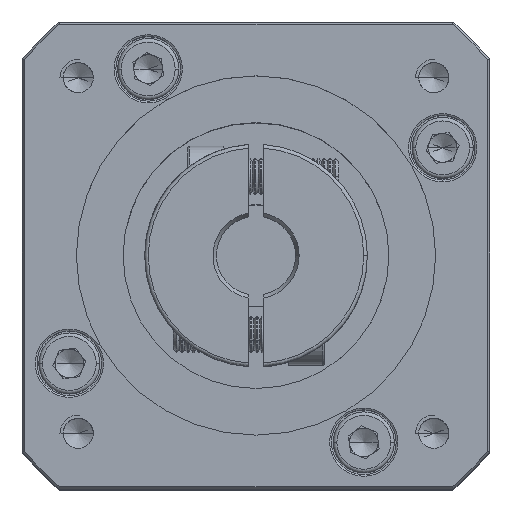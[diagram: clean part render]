
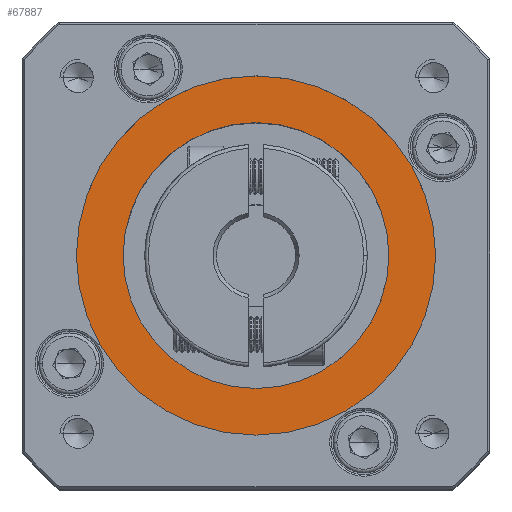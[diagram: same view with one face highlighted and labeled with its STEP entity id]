
A CAD part, top view. The second image highlights one B-rep face of the part: STEP entity #67887.
In plain terms, the highlighted planar face has unit normal (0, 0, 1).
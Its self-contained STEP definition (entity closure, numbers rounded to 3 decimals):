
#1961 = CIRCLE ( 'NONE', #70079, 18.5 ) ;
#6405 = DIRECTION ( 'NONE',  ( 1., 0., 0. ) ) ;
#10662 = DIRECTION ( 'NONE',  ( 1., 0., 0. ) ) ;
#14003 = DIRECTION ( 'NONE',  ( 1., 0., 0. ) ) ;
#18083 = CARTESIAN_POINT ( 'NONE',  ( -33.669, 13.968, -3.341 ) ) ;
#18387 = CIRCLE ( 'NONE', #54743, 25. ) ;
#19525 = ORIENTED_EDGE ( 'NONE', *, *, #54215, .T. ) ;
#21441 = FACE_OUTER_BOUND ( 'NONE', #111876, .T. ) ;
#27622 = FACE_BOUND ( 'NONE', #53337, .T. ) ;
#29908 = DIRECTION ( 'NONE',  ( 0., 0., 1. ) ) ;
#34866 = CARTESIAN_POINT ( 'NONE',  ( -58.669, 13.968, -3.341 ) ) ;
#35074 = PLANE ( 'NONE',  #96340 ) ;
#40999 = ORIENTED_EDGE ( 'NONE', *, *, #87333, .T. ) ;
#41028 = VERTEX_POINT ( 'NONE', #75070 ) ;
#49498 = CARTESIAN_POINT ( 'NONE',  ( -33.669, 13.968, -3.341 ) ) ;
#53337 = EDGE_LOOP ( 'NONE', ( #54941, #19525 ) ) ;
#54103 = DIRECTION ( 'NONE',  ( 0., 0., 1. ) ) ;
#54215 = EDGE_CURVE ( 'NONE', #91871, #41028, #120604, .T. ) ;
#54743 = AXIS2_PLACEMENT_3D ( 'NONE', #74051, #54103, #14003 ) ;
#54941 = ORIENTED_EDGE ( 'NONE', *, *, #100810, .T. ) ;
#57548 = CIRCLE ( 'NONE', #114380, 25. ) ;
#64177 = VERTEX_POINT ( 'NONE', #64974 ) ;
#64974 = CARTESIAN_POINT ( 'NONE',  ( -8.669, 13.968, -3.341 ) ) ;
#67887 = ADVANCED_FACE ( 'NONE', ( #21441, #27622 ), #35074, .T. ) ;
#68630 = DIRECTION ( 'NONE',  ( 1., 0., 0. ) ) ;
#69657 = ORIENTED_EDGE ( 'NONE', *, *, #108279, .T. ) ;
#70079 = AXIS2_PLACEMENT_3D ( 'NONE', #49498, #78847, #68630 ) ;
#74051 = CARTESIAN_POINT ( 'NONE',  ( -33.669, 13.968, -3.341 ) ) ;
#75070 = CARTESIAN_POINT ( 'NONE',  ( -15.169, 13.968, -3.341 ) ) ;
#78847 = DIRECTION ( 'NONE',  ( 0., 0., -1. ) ) ;
#83157 = DIRECTION ( 'NONE',  ( 0., 0., 1. ) ) ;
#83577 = CARTESIAN_POINT ( 'NONE',  ( -33.669, 13.968, -3.341 ) ) ;
#87333 = EDGE_CURVE ( 'NONE', #64177, #121988, #18387, .T. ) ;
#87390 = CARTESIAN_POINT ( 'NONE',  ( -33.669, 13.968, -3.341 ) ) ;
#87952 = DIRECTION ( 'NONE',  ( 1., 0., 0. ) ) ;
#91871 = VERTEX_POINT ( 'NONE', #105037 ) ;
#96340 = AXIS2_PLACEMENT_3D ( 'NONE', #83577, #83157, #6405 ) ;
#100810 = EDGE_CURVE ( 'NONE', #41028, #91871, #1961, .T. ) ;
#105037 = CARTESIAN_POINT ( 'NONE',  ( -52.169, 13.968, -3.341 ) ) ;
#108279 = EDGE_CURVE ( 'NONE', #121988, #64177, #57548, .T. ) ;
#111876 = EDGE_LOOP ( 'NONE', ( #40999, #69657 ) ) ;
#114380 = AXIS2_PLACEMENT_3D ( 'NONE', #87390, #29908, #10662 ) ;
#116121 = DIRECTION ( 'NONE',  ( 0., 0., -1. ) ) ;
#120604 = CIRCLE ( 'NONE', #120730, 18.5 ) ;
#120730 = AXIS2_PLACEMENT_3D ( 'NONE', #18083, #116121, #87952 ) ;
#121988 = VERTEX_POINT ( 'NONE', #34866 ) ;
